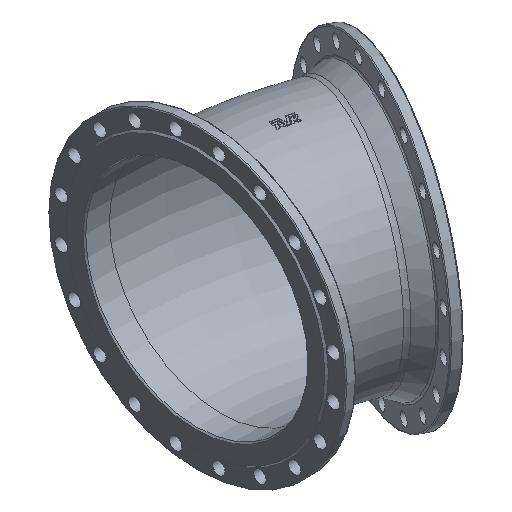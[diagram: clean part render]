
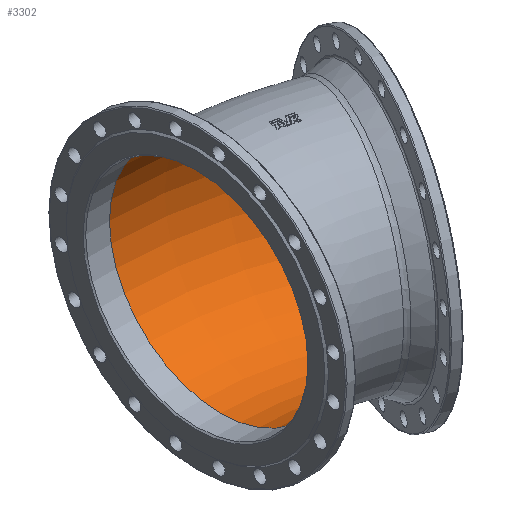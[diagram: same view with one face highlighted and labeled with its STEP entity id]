
A CAD part, isometric view. The second image highlights one B-rep face of the part: STEP entity #3302.
In plain terms, the highlighted toroidal (fillet/blend) face has major radius 646 mm and minor radius 250 mm.
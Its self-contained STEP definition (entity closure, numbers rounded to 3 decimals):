
#164 = VERTEX_POINT ( 'NONE', #2600 ) ;
#301 = FACE_OUTER_BOUND ( 'NONE', #4228, .T. ) ;
#397 = AXIS2_PLACEMENT_3D ( 'NONE', #4002, #1884, #3514 ) ;
#508 = CARTESIAN_POINT ( 'NONE',  ( 214.387, 181.796, 0. ) ) ;
#869 = ORIENTED_EDGE ( 'NONE', *, *, #4396, .F. ) ;
#1108 = DIRECTION ( 'NONE',  ( 1., 0., 0. ) ) ;
#1290 = VERTEX_POINT ( 'NONE', #508 ) ;
#1515 = DIRECTION ( 'NONE',  ( 0., 1., 0. ) ) ;
#1884 = DIRECTION ( 'NONE',  ( 0., 0., -1. ) ) ;
#2168 = CARTESIAN_POINT ( 'NONE',  ( 118.716, -49.174, 0. ) ) ;
#2600 = CARTESIAN_POINT ( 'NONE',  ( -128.497, 250., 0. ) ) ;
#2956 = DIRECTION ( 'NONE',  ( 0.924, -0.383, 0. ) ) ;
#2987 = EDGE_CURVE ( 'NONE', #1290, #1290, #4855, .T. ) ;
#3160 = EDGE_LOOP ( 'NONE', ( #869 ) ) ;
#3302 = ADVANCED_FACE ( 'NONE', ( #301, #3947 ), #4161, .F. ) ;
#3514 = DIRECTION ( 'NONE',  ( -1., 0., 0. ) ) ;
#3735 = CIRCLE ( 'NONE', #4775, 250. ) ;
#3742 = ORIENTED_EDGE ( 'NONE', *, *, #2987, .T. ) ;
#3913 = AXIS2_PLACEMENT_3D ( 'NONE', #2168, #2956, #4299 ) ;
#3947 = FACE_OUTER_BOUND ( 'NONE', #3160, .T. ) ;
#4002 = CARTESIAN_POINT ( 'NONE',  ( -128.497, -646., 0. ) ) ;
#4161 = TOROIDAL_SURFACE ( 'NONE', #397, 646., 250. ) ;
#4228 = EDGE_LOOP ( 'NONE', ( #3742 ) ) ;
#4299 = DIRECTION ( 'NONE',  ( 0.383, 0.924, 0. ) ) ;
#4396 = EDGE_CURVE ( 'NONE', #164, #164, #3735, .T. ) ;
#4762 = CARTESIAN_POINT ( 'NONE',  ( -128.497, 0., 0. ) ) ;
#4775 = AXIS2_PLACEMENT_3D ( 'NONE', #4762, #1108, #1515 ) ;
#4855 = CIRCLE ( 'NONE', #3913, 250. ) ;
